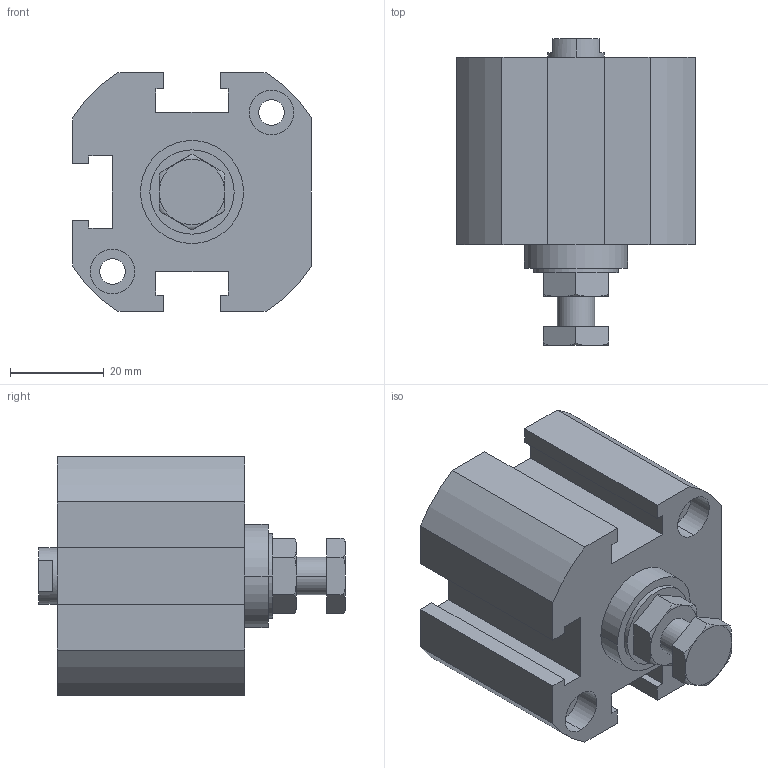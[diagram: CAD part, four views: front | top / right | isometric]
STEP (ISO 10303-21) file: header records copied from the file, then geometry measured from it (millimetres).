
FILE_DESCRIPTION (( 'STEP AP203' ), '1' );
FILE_NAME ('XGA2-32-10.STEP', '2016-05-24T02:40:20', ( '' ), ( '' ), 'SwSTEP 2.0', 'SolidWorks 2014', '' );
FILE_SCHEMA (( 'CONFIG_CONTROL_DESIGN' ));
Length unit declared in the file: millimetre
Products named in the file (3): XGA2-32-10; XG#2-32-10; X#A2-32-H
Assembly tree (2 placements, depth 2):
  XGA2-32-10
    XG#2-32-10
    X#A2-32-H
Bounding box: 51 x 65.5 x 51 mm (x, y, z)
Volume: 82400.4 mm3; surface area: 19203.6 mm2
Topology: 2 solids, 2 shells, 134 faces, 325 edges, 207 vertices
Faces by surface type: plane 64, cylinder 48, torus 12, cone 10
Entity records: 4416 total; most frequent: CARTESIAN_POINT 929, DIRECTION 693, ORIENTED_EDGE 638, EDGE_CURVE 319, AXIS2_PLACEMENT_3D 259, VERTEX_POINT 207, VECTOR 175, LINE 175
